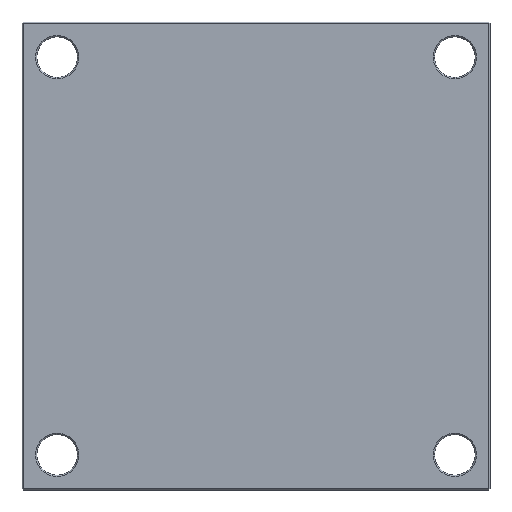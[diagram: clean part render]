
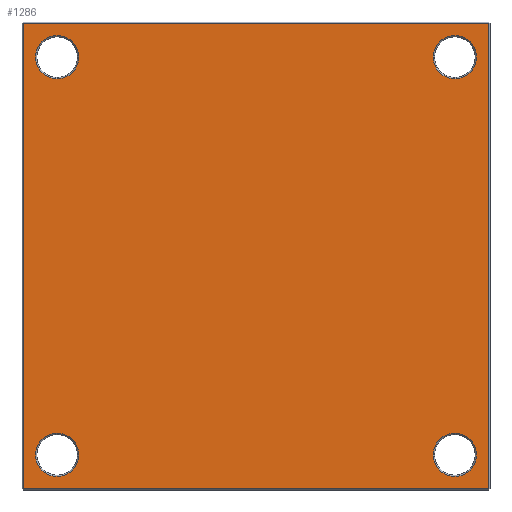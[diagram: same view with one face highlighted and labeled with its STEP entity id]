
A CAD part, front view. The second image highlights one B-rep face of the part: STEP entity #1286.
In plain terms, the highlighted planar face has unit normal (0, -1, 0).
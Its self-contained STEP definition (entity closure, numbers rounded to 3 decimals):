
#44 = CARTESIAN_POINT ( 'NONE',  ( -147., 0., -147. ) ) ;
#84 = CARTESIAN_POINT ( 'NONE',  ( 147., 0., -147. ) ) ;
#87 = DIRECTION ( 'NONE',  ( 0., 1., 0. ) ) ;
#94 = DIRECTION ( 'NONE',  ( 0., 0., 1. ) ) ;
#139 = DIRECTION ( 'NONE',  ( 0., 0., 1. ) ) ;
#152 = ORIENTED_EDGE ( 'NONE', *, *, #1009, .T. ) ;
#157 = CIRCLE ( 'NONE', #1865, 16. ) ;
#163 = VERTEX_POINT ( 'NONE', #354 ) ;
#206 = EDGE_CURVE ( 'NONE', #1198, #793, #1739, .T. ) ;
#226 = DIRECTION ( 'NONE',  ( 0., 0., 1. ) ) ;
#234 = DIRECTION ( 'NONE',  ( 0., 1., 0. ) ) ;
#256 = LINE ( 'NONE', #456, #1933 ) ;
#271 = CARTESIAN_POINT ( 'NONE',  ( -147., 0., -147. ) ) ;
#301 = CIRCLE ( 'NONE', #440, 16. ) ;
#342 = EDGE_CURVE ( 'NONE', #1923, #559, #1100, .T. ) ;
#354 = CARTESIAN_POINT ( 'NONE',  ( -172., 0., -172. ) ) ;
#356 = AXIS2_PLACEMENT_3D ( 'NONE', #1236, #867, #1392 ) ;
#375 = VERTEX_POINT ( 'NONE', #776 ) ;
#389 = CARTESIAN_POINT ( 'NONE',  ( 147., 0., 163. ) ) ;
#417 = CARTESIAN_POINT ( 'NONE',  ( 147., 0., 131. ) ) ;
#430 = VERTEX_POINT ( 'NONE', #1994 ) ;
#434 = EDGE_CURVE ( 'NONE', #1430, #979, #301, .T. ) ;
#435 = LINE ( 'NONE', #1053, #865 ) ;
#440 = AXIS2_PLACEMENT_3D ( 'NONE', #84, #234, #226 ) ;
#441 = CARTESIAN_POINT ( 'NONE',  ( 0., 0., 0. ) ) ;
#456 = CARTESIAN_POINT ( 'NONE',  ( 0., 0., 172. ) ) ;
#463 = AXIS2_PLACEMENT_3D ( 'NONE', #44, #87, #94 ) ;
#466 = DIRECTION ( 'NONE',  ( -1., 0., 0. ) ) ;
#506 = CARTESIAN_POINT ( 'NONE',  ( 147., 0., -163. ) ) ;
#559 = VERTEX_POINT ( 'NONE', #2144 ) ;
#575 = EDGE_LOOP ( 'NONE', ( #1035, #1182 ) ) ;
#607 = LINE ( 'NONE', #1810, #1755 ) ;
#619 = CARTESIAN_POINT ( 'NONE',  ( 147., 0., -147. ) ) ;
#626 = DIRECTION ( 'NONE',  ( 0., 1., 0. ) ) ;
#638 = DIRECTION ( 'NONE',  ( 0., 0., 1. ) ) ;
#673 = PLANE ( 'NONE',  #1939 ) ;
#721 = CIRCLE ( 'NONE', #1736, 16. ) ;
#731 = VERTEX_POINT ( 'NONE', #989 ) ;
#776 = CARTESIAN_POINT ( 'NONE',  ( -147., 0., 131. ) ) ;
#793 = VERTEX_POINT ( 'NONE', #389 ) ;
#833 = EDGE_LOOP ( 'NONE', ( #1145, #980, #1873, #152 ) ) ;
#857 = AXIS2_PLACEMENT_3D ( 'NONE', #1765, #1780, #1787 ) ;
#865 = VECTOR ( 'NONE', #962, 1000. ) ;
#867 = DIRECTION ( 'NONE',  ( 0., 1., 0. ) ) ;
#878 = EDGE_CURVE ( 'NONE', #1083, #163, #607, .T. ) ;
#919 = EDGE_CURVE ( 'NONE', #1897, #430, #1707, .T. ) ;
#962 = DIRECTION ( 'NONE',  ( 1., 0., 0. ) ) ;
#973 = DIRECTION ( 'NONE',  ( 0., 1., 0. ) ) ;
#979 = VERTEX_POINT ( 'NONE', #1836 ) ;
#980 = ORIENTED_EDGE ( 'NONE', *, *, #1752, .T. ) ;
#989 = CARTESIAN_POINT ( 'NONE',  ( -147., 0., 163. ) ) ;
#991 = CARTESIAN_POINT ( 'NONE',  ( -147., 0., 147. ) ) ;
#996 = DIRECTION ( 'NONE',  ( 0., 0., 1. ) ) ;
#998 = DIRECTION ( 'NONE',  ( 0., 1., 0. ) ) ;
#1009 = EDGE_CURVE ( 'NONE', #163, #1897, #435, .T. ) ;
#1017 = DIRECTION ( 'NONE',  ( 0., 0., 1. ) ) ;
#1035 = ORIENTED_EDGE ( 'NONE', *, *, #434, .T. ) ;
#1053 = CARTESIAN_POINT ( 'NONE',  ( 0., 0., -172. ) ) ;
#1060 = CIRCLE ( 'NONE', #1587, 16. ) ;
#1083 = VERTEX_POINT ( 'NONE', #1941 ) ;
#1100 = CIRCLE ( 'NONE', #463, 16. ) ;
#1106 = EDGE_LOOP ( 'NONE', ( #1613, #1463 ) ) ;
#1145 = ORIENTED_EDGE ( 'NONE', *, *, #919, .T. ) ;
#1182 = ORIENTED_EDGE ( 'NONE', *, *, #2075, .T. ) ;
#1198 = VERTEX_POINT ( 'NONE', #417 ) ;
#1236 = CARTESIAN_POINT ( 'NONE',  ( 147., 0., 147. ) ) ;
#1239 = DIRECTION ( 'NONE',  ( 0., 0., -1. ) ) ;
#1254 = EDGE_CURVE ( 'NONE', #731, #375, #1060, .T. ) ;
#1270 = EDGE_CURVE ( 'NONE', #793, #1198, #157, .T. ) ;
#1286 = ADVANCED_FACE ( 'NONE', ( #1812, #1363, #1678, #1677, #1877 ), #673, .F. ) ;
#1363 = FACE_BOUND ( 'NONE', #575, .T. ) ;
#1392 = DIRECTION ( 'NONE',  ( 0., 0., 1. ) ) ;
#1403 = DIRECTION ( 'NONE',  ( 0., 0., 1. ) ) ;
#1430 = VERTEX_POINT ( 'NONE', #506 ) ;
#1463 = ORIENTED_EDGE ( 'NONE', *, *, #1270, .T. ) ;
#1482 = CIRCLE ( 'NONE', #1600, 16. ) ;
#1488 = EDGE_LOOP ( 'NONE', ( #1841, #1552 ) ) ;
#1552 = ORIENTED_EDGE ( 'NONE', *, *, #2022, .T. ) ;
#1576 = CIRCLE ( 'NONE', #857, 16. ) ;
#1581 = CARTESIAN_POINT ( 'NONE',  ( 172., 0., 0. ) ) ;
#1587 = AXIS2_PLACEMENT_3D ( 'NONE', #991, #998, #1017 ) ;
#1589 = CARTESIAN_POINT ( 'NONE',  ( 172., 0., -172. ) ) ;
#1600 = AXIS2_PLACEMENT_3D ( 'NONE', #271, #973, #996 ) ;
#1613 = ORIENTED_EDGE ( 'NONE', *, *, #206, .T. ) ;
#1672 = EDGE_LOOP ( 'NONE', ( #1912, #1871 ) ) ;
#1677 = FACE_BOUND ( 'NONE', #1672, .T. ) ;
#1678 = FACE_BOUND ( 'NONE', #1106, .T. ) ;
#1707 = LINE ( 'NONE', #1581, #2085 ) ;
#1710 = EDGE_CURVE ( 'NONE', #375, #731, #1576, .T. ) ;
#1736 = AXIS2_PLACEMENT_3D ( 'NONE', #619, #626, #638 ) ;
#1739 = CIRCLE ( 'NONE', #356, 16. ) ;
#1752 = EDGE_CURVE ( 'NONE', #430, #1083, #256, .T. ) ;
#1755 = VECTOR ( 'NONE', #1239, 1000. ) ;
#1757 = CARTESIAN_POINT ( 'NONE',  ( -147., 0., -163. ) ) ;
#1759 = CARTESIAN_POINT ( 'NONE',  ( 147., 0., 147. ) ) ;
#1765 = CARTESIAN_POINT ( 'NONE',  ( -147., 0., 147. ) ) ;
#1773 = DIRECTION ( 'NONE',  ( 0., 1., 0. ) ) ;
#1780 = DIRECTION ( 'NONE',  ( 0., 1., 0. ) ) ;
#1786 = DIRECTION ( 'NONE',  ( 0., 0., 1. ) ) ;
#1787 = DIRECTION ( 'NONE',  ( 0., 0., 1. ) ) ;
#1810 = CARTESIAN_POINT ( 'NONE',  ( -172., 0., 0. ) ) ;
#1812 = FACE_BOUND ( 'NONE', #1488, .T. ) ;
#1836 = CARTESIAN_POINT ( 'NONE',  ( 147., 0., -131. ) ) ;
#1841 = ORIENTED_EDGE ( 'NONE', *, *, #342, .T. ) ;
#1846 = DIRECTION ( 'NONE',  ( 0., 1., 0. ) ) ;
#1865 = AXIS2_PLACEMENT_3D ( 'NONE', #1759, #1773, #1786 ) ;
#1871 = ORIENTED_EDGE ( 'NONE', *, *, #1254, .T. ) ;
#1873 = ORIENTED_EDGE ( 'NONE', *, *, #878, .T. ) ;
#1877 = FACE_OUTER_BOUND ( 'NONE', #833, .T. ) ;
#1897 = VERTEX_POINT ( 'NONE', #1589 ) ;
#1912 = ORIENTED_EDGE ( 'NONE', *, *, #1710, .T. ) ;
#1923 = VERTEX_POINT ( 'NONE', #1757 ) ;
#1933 = VECTOR ( 'NONE', #466, 1000. ) ;
#1939 = AXIS2_PLACEMENT_3D ( 'NONE', #441, #1846, #139 ) ;
#1941 = CARTESIAN_POINT ( 'NONE',  ( -172., 0., 172. ) ) ;
#1994 = CARTESIAN_POINT ( 'NONE',  ( 172., 0., 172. ) ) ;
#2022 = EDGE_CURVE ( 'NONE', #559, #1923, #1482, .T. ) ;
#2075 = EDGE_CURVE ( 'NONE', #979, #1430, #721, .T. ) ;
#2085 = VECTOR ( 'NONE', #1403, 1000. ) ;
#2144 = CARTESIAN_POINT ( 'NONE',  ( -147., 0., -131. ) ) ;
